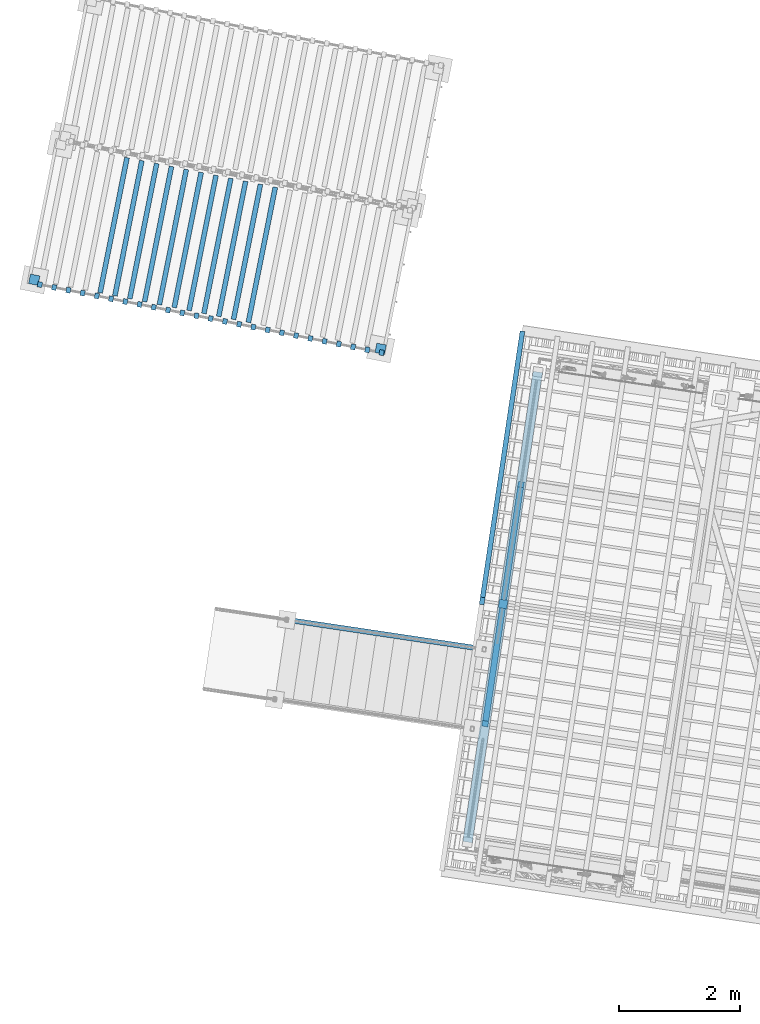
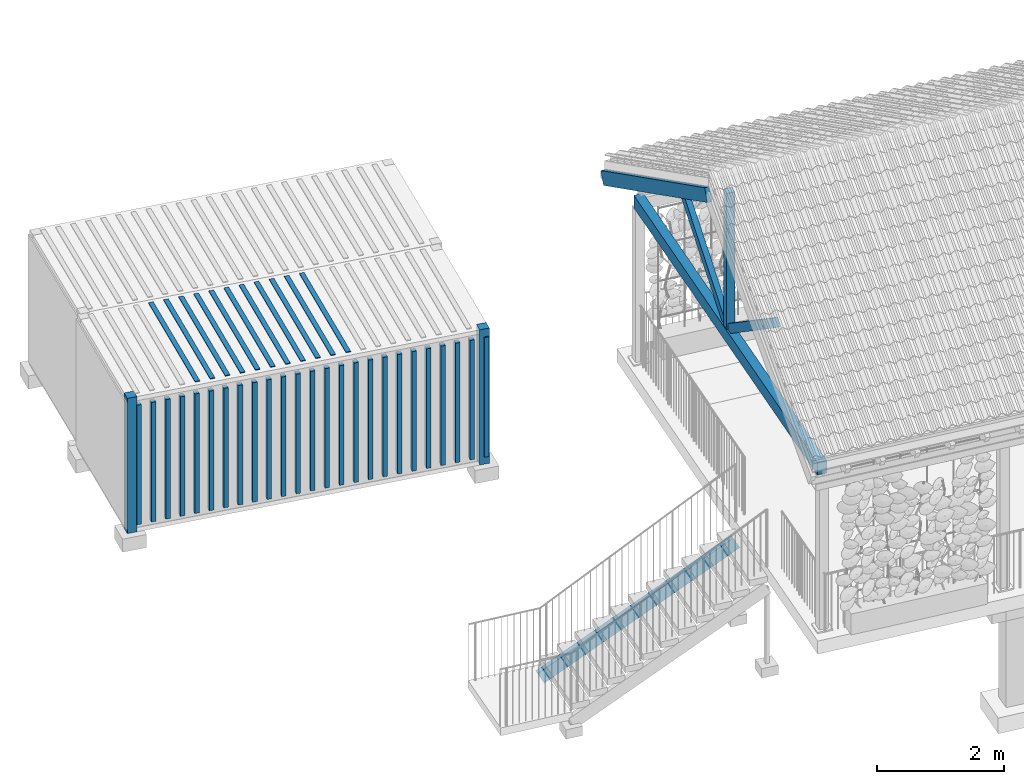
# One storey, part 23 of 131: 43 members, 1 beam, 3 elements without a shape of their own.
"""IFC4 building model written with IfcOpenShell, lengths in metres."""

from ifc_helpers import new_model, si_unit, direction, frame, origin_with_axes, place, context, subcontext, project, spatial, polyline, rectangle, outline, extrude, material, material_profile, profile_set, profile_usage, type_object, element, aggregate, save


model = new_model("IFC4")

# Units and contexts
model_context = context("Model", 3, precision=1e-05, world=origin_with_axes(), true_north=direction((0.0, 1.0)))
body_context = subcontext(model_context, "Body", "Model", "MODEL_VIEW")
ifc_project = project(units=[si_unit("VOLUMEUNIT", "CUBIC_METRE"), si_unit("LENGTHUNIT", "METRE"), si_unit("AREAUNIT", "SQUARE_METRE")], contexts=[model_context])

# Site, building, storey
site_placement = place(None, origin_with_axes())
site = spatial("IfcSite", under=ifc_project, at=site_placement, Name="Lares · Rua das Mercês · artigo 4771")
building_placement = place(site_placement, frame((15.0, 9.7, 14.65), z_axis=(0.0, 0.0, 1.0), x_axis=(0.989015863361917, -0.147809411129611, 0.0)))
building = spatial("IfcBuilding", under=site, at=building_placement, Name="Casa Sobreposta")
storey_placement = place(building_placement, origin_with_axes())
storey = spatial("IfcBuildingStorey", under=building, at=storey_placement, Name="00 · Habitação e estacionamento", Elevation=14.65)

# Roof, beam, members
ifc_material_1 = material(Name="Madeira / Bauholz", Category="wood")
roof_placement = place(storey_placement, origin_with_axes())
roof = element("IfcRoof", 1, at=roof_placement, inside=storey, material=ifc_material_1, Name="Cobertura de telha · duas águas 30 graus", PredefinedType="GABLE_ROOF")
ifc_material_profile_1 = material_profile(ifc_material_1, rectangle(XDim=0.16, YDim=0.24))
ifc_profile_set_1 = profile_set([ifc_material_profile_1], Name="TIMBER0.160x0.240")
ifc_profile_usage_1 = profile_usage(ifc_profile_set_1)
beam_type = type_object("IfcBeamType", Name="TIMBER0.160x0.240 / timber", PredefinedType="NOTDEFINED", material=ifc_profile_set_1)
beam_placement = place(roof_placement, frame((-6.05, -1.43, 3.02), z_axis=(0.0, 1.0, 0.0), x_axis=(1.0, 0.0, 0.0)))
beam = element("IfcBeam", 2, at=beam_placement, type_object=beam_type, material=ifc_profile_usage_1, Name="Tesoura · tirante inferior", context=body_context, shape_type="SweptSolid", body=[
    extrude(rectangle(XDim=0.16, YDim=0.24), origin_with_axes(), (0.0, 0.0, 1.0), 7.86),
])
ifc_material_profile_2 = material_profile(ifc_material_1, rectangle(XDim=0.14, YDim=0.14))
ifc_profile_set_2 = profile_set([ifc_material_profile_2], Name="TIMBER0.140x0.140")
ifc_profile_usage_2 = profile_usage(ifc_profile_set_2)
member_type_1 = type_object("IfcMemberType", Name="TIMBER0.140x0.140 / timber", PredefinedType="NOTDEFINED", material=ifc_profile_set_2)
member_1_placement = place(roof_placement, frame((-6.05, 2.55, 3.02), z_axis=(0.0, 0.0, 1.0), x_axis=(1.0, 0.0, 0.0)))
member_1 = element("IfcMember", 3, at=member_1_placement, type_object=member_type_1, material=ifc_profile_usage_2, Name="Tesoura · pendural", context=body_context, shape_type="SweptSolid", body=[
    extrude(rectangle(XDim=0.14, YDim=0.14), origin_with_axes(), (0.0, 0.0, 1.0), 2.72420869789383),
])
ifc_material_profile_3 = material_profile(ifc_material_1, rectangle(XDim=0.1, YDim=0.16))
ifc_profile_set_3 = profile_set([ifc_material_profile_3], Name="TIMBER0.100x0.160")
ifc_profile_usage_3 = profile_usage(ifc_profile_set_3)
member_type_2 = type_object("IfcMemberType", Name="TIMBER0.100x0.160 / timber", PredefinedType="NOTDEFINED", material=ifc_profile_set_3)
member_2_placement = place(roof_placement, frame((-6.05, 2.55, 3.1), z_axis=(0.0, -0.816439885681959, 0.577430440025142), x_axis=(-1.0, 0.0, 0.0)))
member_2 = element("IfcMember", 4, at=member_2_placement, type_object=member_type_2, material=ifc_profile_usage_3, Name="Tesoura · escora", context=body_context, shape_type="SweptSolid", body=[
    extrude(rectangle(XDim=0.1, YDim=0.16), origin_with_axes(), (0.0, 0.0, 1.0), 2.44965984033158),
])
ifc_profile_usage_4 = profile_usage(ifc_profile_set_3)
member_3_placement = place(roof_placement, frame((-6.05, 2.55, 3.1), z_axis=(0.0, 0.816439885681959, 0.577430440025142), x_axis=(1.0, 0.0, 0.0)))
member_3 = element("IfcMember", 5, at=member_3_placement, type_object=member_type_2, material=ifc_profile_usage_4, Name="Tesoura · escora", context=body_context, shape_type="SweptSolid", body=[
    extrude(rectangle(XDim=0.1, YDim=0.16), origin_with_axes(), (0.0, 0.0, 1.0), 2.44965984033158),
])
ifc_material_profile_4 = material_profile(ifc_material_1, rectangle(XDim=0.08, YDim=0.24))
ifc_profile_set_4 = profile_set([ifc_material_profile_4], Name="TIMBER0.080x0.240")
ifc_profile_usage_5 = profile_usage(ifc_profile_set_4)
member_type_3 = type_object("IfcMemberType", Name="TIMBER0.080x0.240 / timber", PredefinedType="NOTDEFINED", material=ifc_profile_set_4)
member_4_placement = place(roof_placement, frame((-6.4, 2.55, 5.75020869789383), z_axis=(0.0, 0.866025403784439, -0.5), x_axis=(1.0, 0.0, 0.0)))
member_4 = element("IfcMember", 6, at=member_4_placement, type_object=member_type_3, material=ifc_profile_usage_5, Name="Cobertura · caibro", context=body_context, shape_type="SweptSolid", body=[
    extrude(rectangle(XDim=0.08, YDim=0.24), origin_with_axes(), (0.0, 0.0, 1.0), 5.13841739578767),
])
aggregate(roof, [beam, member_1, member_2, member_3, member_4])

# Stair, member
stair_placement = place(storey_placement, origin_with_axes())
stair = element("IfcStair", 7, at=stair_placement, inside=storey, Name="Jardim · escada pela fachada poente", PredefinedType="STRAIGHT_RUN_STAIR")
ifc_material_2 = material(Name="Aço pintado / Stahl lackiert", Category="steel")
ifc_material_profile_5 = material_profile(ifc_material_2, outline(polyline([(-0.0425, -0.12), (0.0425, -0.12), (0.0425, -0.1102), (-0.0325, -0.1102), (-0.0325, 0.1102), (0.0425, 0.1102), (0.0425, 0.12), (-0.0425, 0.12), (-0.0425, -0.12)])))
ifc_profile_set_5 = profile_set([ifc_material_profile_5], Name="C240")
ifc_profile_usage_6 = profile_usage(ifc_profile_set_5)
member_type_4 = type_object("IfcMemberType", Name="C240 / steel", PredefinedType="NOTDEFINED", material=ifc_profile_set_5)
member_5_placement = place(stair_placement, frame((-6.25, 1.765, -0.419166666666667), z_axis=(-0.883369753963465, 0.0, -0.468676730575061), x_axis=(0.0, 1.0, 0.0)))
member_5 = element("IfcMember", 8, at=member_5_placement, type_object=member_type_4, material=ifc_profile_usage_6, Name="Jardim · longarina poente", context=body_context, shape_type="SweptSolid", body=[
    extrude(outline(polyline([(-0.0425, -0.12), (0.0425, -0.12), (0.0425, -0.1102), (-0.0325, -0.1102), (-0.0325, 0.1102), (0.0425, 0.1102), (0.0425, 0.12), (-0.0425, 0.12), (-0.0425, -0.12)])), origin_with_axes(), (0.0, 0.0, 1.0), 3.73569503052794),
])
aggregate(stair, [member_5])

# Assembly, members
assembly_placement = place(storey_placement, frame((-14.5932944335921, 6.63122214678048, 0.0), z_axis=(0.0, 0.0, 1.0), x_axis=(0.998832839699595, -0.0483007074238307, 0.0)))
assembly = element("IfcElementAssembly", 9, at=assembly_placement, inside=storey, Name="Contentor existente 2 · 6 m", ObjectType="EXISTING_SHIPPING_CONTAINER", PredefinedType="USERDEFINED")
ifc_material_3 = material(Name="Contentor · pintura 2", Category="steel")
member_6_placement = place(assembly_placement, frame((0.0, 0.0, -1.3), z_axis=(0.0, 0.0, 1.0), x_axis=(1.0, 0.0, 0.0)))
member_6 = element("IfcMember", 10, at=member_6_placement, material=ifc_material_3, Name="Contentor · canto", context=body_context, shape_type="SweptSolid", body=[
    extrude(outline(polyline([(0.16, 0.0), (0.16, 0.16), (0.0, 0.16), (0.0, 0.0), (0.16, 0.0)])), origin_with_axes(), (0.0, 0.0, 1.0), 2.59),
])
member_7_placement = place(assembly_placement, frame((0.0, 0.0, -1.3), z_axis=(0.0, 0.0, 1.0), x_axis=(1.0, 0.0, 0.0)))
member_7 = element("IfcMember", 11, at=member_7_placement, material=ifc_material_3, Name="Contentor · canto", context=body_context, shape_type="SweptSolid", body=[
    extrude(outline(polyline([(6.0, 0.0), (6.0, 0.16), (5.84, 0.16), (5.84, 0.0), (6.0, 0.0)])), origin_with_axes(), (0.0, 0.0, 1.0), 2.59),
])
member_8_placement = place(assembly_placement, frame((0.0, 0.0, -1.15), z_axis=(0.0, 0.0, 1.0), x_axis=(1.0, 0.0, 0.0)))
member_8 = element("IfcMember", 12, at=member_8_placement, material=ifc_material_3, Name="Contentor · nervura lateral", context=body_context, shape_type="SweptSolid", body=[
    extrude(outline(polyline([(0.225, -0.025), (0.225, 0.065), (0.15, 0.065), (0.15, -0.025), (0.225, -0.025)])), origin_with_axes(), (0.0, 0.0, 1.0), 2.29),
])
member_9_placement = place(assembly_placement, frame((0.0, 0.0, -1.15), z_axis=(0.0, 0.0, 1.0), x_axis=(1.0, 0.0, 0.0)))
member_9 = element("IfcMember", 13, at=member_9_placement, material=ifc_material_3, Name="Contentor · nervura lateral", context=body_context, shape_type="SweptSolid", body=[
    extrude(outline(polyline([(0.465, -0.025), (0.465, 0.065), (0.39, 0.065), (0.39, -0.025), (0.465, -0.025)])), origin_with_axes(), (0.0, 0.0, 1.0), 2.29),
])
member_10_placement = place(assembly_placement, frame((0.0, 0.0, -1.15), z_axis=(0.0, 0.0, 1.0), x_axis=(1.0, 0.0, 0.0)))
member_10 = element("IfcMember", 14, at=member_10_placement, material=ifc_material_3, Name="Contentor · nervura lateral", context=body_context, shape_type="SweptSolid", body=[
    extrude(outline(polyline([(0.705, -0.025), (0.705, 0.065), (0.63, 0.065), (0.63, -0.025), (0.705, -0.025)])), origin_with_axes(), (0.0, 0.0, 1.0), 2.29),
])
member_11_placement = place(assembly_placement, frame((0.0, 0.0, -1.15), z_axis=(0.0, 0.0, 1.0), x_axis=(1.0, 0.0, 0.0)))
member_11 = element("IfcMember", 15, at=member_11_placement, material=ifc_material_3, Name="Contentor · nervura lateral", context=body_context, shape_type="SweptSolid", body=[
    extrude(outline(polyline([(0.945, -0.025), (0.945, 0.065), (0.87, 0.065), (0.87, -0.025), (0.945, -0.025)])), origin_with_axes(), (0.0, 0.0, 1.0), 2.29),
])
member_12_placement = place(assembly_placement, frame((0.0, 0.0, -1.15), z_axis=(0.0, 0.0, 1.0), x_axis=(1.0, 0.0, 0.0)))
member_12 = element("IfcMember", 16, at=member_12_placement, material=ifc_material_3, Name="Contentor · nervura lateral", context=body_context, shape_type="SweptSolid", body=[
    extrude(outline(polyline([(1.185, -0.025), (1.185, 0.065), (1.11, 0.065), (1.11, -0.025), (1.185, -0.025)])), origin_with_axes(), (0.0, 0.0, 1.0), 2.29),
])
member_13_placement = place(assembly_placement, frame((0.0, 0.0, -1.15), z_axis=(0.0, 0.0, 1.0), x_axis=(1.0, 0.0, 0.0)))
member_13 = element("IfcMember", 17, at=member_13_placement, material=ifc_material_3, Name="Contentor · nervura lateral", context=body_context, shape_type="SweptSolid", body=[
    extrude(outline(polyline([(1.425, -0.025), (1.425, 0.065), (1.35, 0.065), (1.35, -0.025), (1.425, -0.025)])), origin_with_axes(), (0.0, 0.0, 1.0), 2.29),
])
member_14_placement = place(assembly_placement, frame((0.0, 0.0, -1.15), z_axis=(0.0, 0.0, 1.0), x_axis=(1.0, 0.0, 0.0)))
member_14 = element("IfcMember", 18, at=member_14_placement, material=ifc_material_3, Name="Contentor · nervura lateral", context=body_context, shape_type="SweptSolid", body=[
    extrude(outline(polyline([(1.665, -0.025), (1.665, 0.065), (1.59, 0.065), (1.59, -0.025), (1.665, -0.025)])), origin_with_axes(), (0.0, 0.0, 1.0), 2.29),
])
member_15_placement = place(assembly_placement, frame((0.0, 0.0, -1.15), z_axis=(0.0, 0.0, 1.0), x_axis=(1.0, 0.0, 0.0)))
member_15 = element("IfcMember", 19, at=member_15_placement, material=ifc_material_3, Name="Contentor · nervura lateral", context=body_context, shape_type="SweptSolid", body=[
    extrude(outline(polyline([(1.905, -0.025), (1.905, 0.065), (1.83, 0.065), (1.83, -0.025), (1.905, -0.025)])), origin_with_axes(), (0.0, 0.0, 1.0), 2.29),
])
member_16_placement = place(assembly_placement, frame((0.0, 0.0, -1.15), z_axis=(0.0, 0.0, 1.0), x_axis=(1.0, 0.0, 0.0)))
member_16 = element("IfcMember", 20, at=member_16_placement, material=ifc_material_3, Name="Contentor · nervura lateral", context=body_context, shape_type="SweptSolid", body=[
    extrude(outline(polyline([(2.145, -0.025), (2.145, 0.065), (2.07, 0.065), (2.07, -0.025), (2.145, -0.025)])), origin_with_axes(), (0.0, 0.0, 1.0), 2.29),
])
member_17_placement = place(assembly_placement, frame((0.0, 0.0, -1.15), z_axis=(0.0, 0.0, 1.0), x_axis=(1.0, 0.0, 0.0)))
member_17 = element("IfcMember", 21, at=member_17_placement, material=ifc_material_3, Name="Contentor · nervura lateral", context=body_context, shape_type="SweptSolid", body=[
    extrude(outline(polyline([(2.385, -0.025), (2.385, 0.065), (2.31, 0.065), (2.31, -0.025), (2.385, -0.025)])), origin_with_axes(), (0.0, 0.0, 1.0), 2.29),
])
member_18_placement = place(assembly_placement, frame((0.0, 0.0, -1.15), z_axis=(0.0, 0.0, 1.0), x_axis=(1.0, 0.0, 0.0)))
member_18 = element("IfcMember", 22, at=member_18_placement, material=ifc_material_3, Name="Contentor · nervura lateral", context=body_context, shape_type="SweptSolid", body=[
    extrude(outline(polyline([(2.625, -0.025), (2.625, 0.065), (2.55, 0.065), (2.55, -0.025), (2.625, -0.025)])), origin_with_axes(), (0.0, 0.0, 1.0), 2.29),
])
member_19_placement = place(assembly_placement, frame((0.0, 0.0, -1.15), z_axis=(0.0, 0.0, 1.0), x_axis=(1.0, 0.0, 0.0)))
member_19 = element("IfcMember", 23, at=member_19_placement, material=ifc_material_3, Name="Contentor · nervura lateral", context=body_context, shape_type="SweptSolid", body=[
    extrude(outline(polyline([(2.865, -0.025), (2.865, 0.065), (2.79, 0.065), (2.79, -0.025), (2.865, -0.025)])), origin_with_axes(), (0.0, 0.0, 1.0), 2.29),
])
member_20_placement = place(assembly_placement, frame((0.0, 0.0, -1.15), z_axis=(0.0, 0.0, 1.0), x_axis=(1.0, 0.0, 0.0)))
member_20 = element("IfcMember", 24, at=member_20_placement, material=ifc_material_3, Name="Contentor · nervura lateral", context=body_context, shape_type="SweptSolid", body=[
    extrude(outline(polyline([(3.105, -0.025), (3.105, 0.065), (3.03, 0.065), (3.03, -0.025), (3.105, -0.025)])), origin_with_axes(), (0.0, 0.0, 1.0), 2.29),
])
member_21_placement = place(assembly_placement, frame((0.0, 0.0, -1.15), z_axis=(0.0, 0.0, 1.0), x_axis=(1.0, 0.0, 0.0)))
member_21 = element("IfcMember", 25, at=member_21_placement, material=ifc_material_3, Name="Contentor · nervura lateral", context=body_context, shape_type="SweptSolid", body=[
    extrude(outline(polyline([(3.345, -0.025), (3.345, 0.065), (3.27, 0.065), (3.27, -0.025), (3.345, -0.025)])), origin_with_axes(), (0.0, 0.0, 1.0), 2.29),
])
member_22_placement = place(assembly_placement, frame((0.0, 0.0, -1.15), z_axis=(0.0, 0.0, 1.0), x_axis=(1.0, 0.0, 0.0)))
member_22 = element("IfcMember", 26, at=member_22_placement, material=ifc_material_3, Name="Contentor · nervura lateral", context=body_context, shape_type="SweptSolid", body=[
    extrude(outline(polyline([(3.585, -0.025), (3.585, 0.065), (3.51, 0.065), (3.51, -0.025), (3.585, -0.025)])), origin_with_axes(), (0.0, 0.0, 1.0), 2.29),
])
member_23_placement = place(assembly_placement, frame((0.0, 0.0, -1.15), z_axis=(0.0, 0.0, 1.0), x_axis=(1.0, 0.0, 0.0)))
member_23 = element("IfcMember", 27, at=member_23_placement, material=ifc_material_3, Name="Contentor · nervura lateral", context=body_context, shape_type="SweptSolid", body=[
    extrude(outline(polyline([(3.825, -0.025), (3.825, 0.065), (3.75, 0.065), (3.75, -0.025), (3.825, -0.025)])), origin_with_axes(), (0.0, 0.0, 1.0), 2.29),
])
member_24_placement = place(assembly_placement, frame((0.0, 0.0, -1.15), z_axis=(0.0, 0.0, 1.0), x_axis=(1.0, 0.0, 0.0)))
member_24 = element("IfcMember", 28, at=member_24_placement, material=ifc_material_3, Name="Contentor · nervura lateral", context=body_context, shape_type="SweptSolid", body=[
    extrude(outline(polyline([(4.065, -0.025), (4.065, 0.065), (3.99, 0.065), (3.99, -0.025), (4.065, -0.025)])), origin_with_axes(), (0.0, 0.0, 1.0), 2.29),
])
member_25_placement = place(assembly_placement, frame((0.0, 0.0, -1.15), z_axis=(0.0, 0.0, 1.0), x_axis=(1.0, 0.0, 0.0)))
member_25 = element("IfcMember", 29, at=member_25_placement, material=ifc_material_3, Name="Contentor · nervura lateral", context=body_context, shape_type="SweptSolid", body=[
    extrude(outline(polyline([(4.305, -0.025), (4.305, 0.065), (4.23, 0.065), (4.23, -0.025), (4.305, -0.025)])), origin_with_axes(), (0.0, 0.0, 1.0), 2.29),
])
member_26_placement = place(assembly_placement, frame((0.0, 0.0, -1.15), z_axis=(0.0, 0.0, 1.0), x_axis=(1.0, 0.0, 0.0)))
member_26 = element("IfcMember", 30, at=member_26_placement, material=ifc_material_3, Name="Contentor · nervura lateral", context=body_context, shape_type="SweptSolid", body=[
    extrude(outline(polyline([(4.545, -0.025), (4.545, 0.065), (4.47, 0.065), (4.47, -0.025), (4.545, -0.025)])), origin_with_axes(), (0.0, 0.0, 1.0), 2.29),
])
member_27_placement = place(assembly_placement, frame((0.0, 0.0, -1.15), z_axis=(0.0, 0.0, 1.0), x_axis=(1.0, 0.0, 0.0)))
member_27 = element("IfcMember", 31, at=member_27_placement, material=ifc_material_3, Name="Contentor · nervura lateral", context=body_context, shape_type="SweptSolid", body=[
    extrude(outline(polyline([(4.785, -0.025), (4.785, 0.065), (4.71, 0.065), (4.71, -0.025), (4.785, -0.025)])), origin_with_axes(), (0.0, 0.0, 1.0), 2.29),
])
member_28_placement = place(assembly_placement, frame((0.0, 0.0, -1.15), z_axis=(0.0, 0.0, 1.0), x_axis=(1.0, 0.0, 0.0)))
member_28 = element("IfcMember", 32, at=member_28_placement, material=ifc_material_3, Name="Contentor · nervura lateral", context=body_context, shape_type="SweptSolid", body=[
    extrude(outline(polyline([(5.025, -0.025), (5.025, 0.065), (4.95, 0.065), (4.95, -0.025), (5.025, -0.025)])), origin_with_axes(), (0.0, 0.0, 1.0), 2.29),
])
member_29_placement = place(assembly_placement, frame((0.0, 0.0, -1.15), z_axis=(0.0, 0.0, 1.0), x_axis=(1.0, 0.0, 0.0)))
member_29 = element("IfcMember", 33, at=member_29_placement, material=ifc_material_3, Name="Contentor · nervura lateral", context=body_context, shape_type="SweptSolid", body=[
    extrude(outline(polyline([(5.265, -0.025), (5.265, 0.065), (5.19, 0.065), (5.19, -0.025), (5.265, -0.025)])), origin_with_axes(), (0.0, 0.0, 1.0), 2.29),
])
member_30_placement = place(assembly_placement, frame((0.0, 0.0, -1.15), z_axis=(0.0, 0.0, 1.0), x_axis=(1.0, 0.0, 0.0)))
member_30 = element("IfcMember", 34, at=member_30_placement, material=ifc_material_3, Name="Contentor · nervura lateral", context=body_context, shape_type="SweptSolid", body=[
    extrude(outline(polyline([(5.505, -0.025), (5.505, 0.065), (5.43, 0.065), (5.43, -0.025), (5.505, -0.025)])), origin_with_axes(), (0.0, 0.0, 1.0), 2.29),
])
member_31_placement = place(assembly_placement, frame((0.0, 0.0, -1.15), z_axis=(0.0, 0.0, 1.0), x_axis=(1.0, 0.0, 0.0)))
member_31 = element("IfcMember", 35, at=member_31_placement, material=ifc_material_3, Name="Contentor · nervura lateral", context=body_context, shape_type="SweptSolid", body=[
    extrude(outline(polyline([(5.745, -0.025), (5.745, 0.065), (5.67, 0.065), (5.67, -0.025), (5.745, -0.025)])), origin_with_axes(), (0.0, 0.0, 1.0), 2.29),
])
member_32_placement = place(assembly_placement, frame((0.0, 0.0, -1.15), z_axis=(0.0, 0.0, 1.0), x_axis=(1.0, 0.0, 0.0)))
member_32 = element("IfcMember", 36, at=member_32_placement, material=ifc_material_3, Name="Contentor · nervura lateral", context=body_context, shape_type="SweptSolid", body=[
    extrude(outline(polyline([(5.985, -0.025), (5.985, 0.065), (5.91, 0.065), (5.91, -0.025), (5.985, -0.025)])), origin_with_axes(), (0.0, 0.0, 1.0), 2.29),
])
member_33_placement = place(assembly_placement, frame((0.0, 0.0, 1.285), z_axis=(0.0, 0.0, 1.0), x_axis=(1.0, 0.0, 0.0)))
member_33 = element("IfcMember", 37, at=member_33_placement, material=ifc_material_3, Name="Contentor · nervura cobertura", context=body_context, shape_type="SweptSolid", body=[
    extrude(outline(polyline([(1.23, 0.08), (1.23, 2.36), (1.15, 2.36), (1.15, 0.08), (1.23, 0.08)])), origin_with_axes(), (0.0, 0.0, 1.0), 0.018),
])
member_34_placement = place(assembly_placement, frame((0.0, 0.0, 1.285), z_axis=(0.0, 0.0, 1.0), x_axis=(1.0, 0.0, 0.0)))
member_34 = element("IfcMember", 38, at=member_34_placement, material=ifc_material_3, Name="Contentor · nervura cobertura", context=body_context, shape_type="SweptSolid", body=[
    extrude(outline(polyline([(1.48, 0.08), (1.48, 2.36), (1.4, 2.36), (1.4, 0.08), (1.48, 0.08)])), origin_with_axes(), (0.0, 0.0, 1.0), 0.018),
])
member_35_placement = place(assembly_placement, frame((0.0, 0.0, 1.285), z_axis=(0.0, 0.0, 1.0), x_axis=(1.0, 0.0, 0.0)))
member_35 = element("IfcMember", 39, at=member_35_placement, material=ifc_material_3, Name="Contentor · nervura cobertura", context=body_context, shape_type="SweptSolid", body=[
    extrude(outline(polyline([(1.73, 0.08), (1.73, 2.36), (1.65, 2.36), (1.65, 0.08), (1.73, 0.08)])), origin_with_axes(), (0.0, 0.0, 1.0), 0.018),
])
member_36_placement = place(assembly_placement, frame((0.0, 0.0, 1.285), z_axis=(0.0, 0.0, 1.0), x_axis=(1.0, 0.0, 0.0)))
member_36 = element("IfcMember", 40, at=member_36_placement, material=ifc_material_3, Name="Contentor · nervura cobertura", context=body_context, shape_type="SweptSolid", body=[
    extrude(outline(polyline([(1.98, 0.08), (1.98, 2.36), (1.9, 2.36), (1.9, 0.08), (1.98, 0.08)])), origin_with_axes(), (0.0, 0.0, 1.0), 0.018),
])
member_37_placement = place(assembly_placement, frame((0.0, 0.0, 1.285), z_axis=(0.0, 0.0, 1.0), x_axis=(1.0, 0.0, 0.0)))
member_37 = element("IfcMember", 41, at=member_37_placement, material=ifc_material_3, Name="Contentor · nervura cobertura", context=body_context, shape_type="SweptSolid", body=[
    extrude(outline(polyline([(2.23, 0.08), (2.23, 2.36), (2.15, 2.36), (2.15, 0.08), (2.23, 0.08)])), origin_with_axes(), (0.0, 0.0, 1.0), 0.018),
])
member_38_placement = place(assembly_placement, frame((0.0, 0.0, 1.285), z_axis=(0.0, 0.0, 1.0), x_axis=(1.0, 0.0, 0.0)))
member_38 = element("IfcMember", 42, at=member_38_placement, material=ifc_material_3, Name="Contentor · nervura cobertura", context=body_context, shape_type="SweptSolid", body=[
    extrude(outline(polyline([(2.48, 0.08), (2.48, 2.36), (2.4, 2.36), (2.4, 0.08), (2.48, 0.08)])), origin_with_axes(), (0.0, 0.0, 1.0), 0.018),
])
member_39_placement = place(assembly_placement, frame((0.0, 0.0, 1.285), z_axis=(0.0, 0.0, 1.0), x_axis=(1.0, 0.0, 0.0)))
member_39 = element("IfcMember", 43, at=member_39_placement, material=ifc_material_3, Name="Contentor · nervura cobertura", context=body_context, shape_type="SweptSolid", body=[
    extrude(outline(polyline([(2.73, 0.08), (2.73, 2.36), (2.65, 2.36), (2.65, 0.08), (2.73, 0.08)])), origin_with_axes(), (0.0, 0.0, 1.0), 0.018),
])
member_40_placement = place(assembly_placement, frame((0.0, 0.0, 1.285), z_axis=(0.0, 0.0, 1.0), x_axis=(1.0, 0.0, 0.0)))
member_40 = element("IfcMember", 44, at=member_40_placement, material=ifc_material_3, Name="Contentor · nervura cobertura", context=body_context, shape_type="SweptSolid", body=[
    extrude(outline(polyline([(2.98, 0.08), (2.98, 2.36), (2.9, 2.36), (2.9, 0.08), (2.98, 0.08)])), origin_with_axes(), (0.0, 0.0, 1.0), 0.018),
])
member_41_placement = place(assembly_placement, frame((0.0, 0.0, 1.285), z_axis=(0.0, 0.0, 1.0), x_axis=(1.0, 0.0, 0.0)))
member_41 = element("IfcMember", 45, at=member_41_placement, material=ifc_material_3, Name="Contentor · nervura cobertura", context=body_context, shape_type="SweptSolid", body=[
    extrude(outline(polyline([(3.23, 0.08), (3.23, 2.36), (3.15, 2.36), (3.15, 0.08), (3.23, 0.08)])), origin_with_axes(), (0.0, 0.0, 1.0), 0.018),
])
member_42_placement = place(assembly_placement, frame((0.0, 0.0, 1.285), z_axis=(0.0, 0.0, 1.0), x_axis=(1.0, 0.0, 0.0)))
member_42 = element("IfcMember", 46, at=member_42_placement, material=ifc_material_3, Name="Contentor · nervura cobertura", context=body_context, shape_type="SweptSolid", body=[
    extrude(outline(polyline([(3.48, 0.08), (3.48, 2.36), (3.4, 2.36), (3.4, 0.08), (3.48, 0.08)])), origin_with_axes(), (0.0, 0.0, 1.0), 0.018),
])
member_43_placement = place(assembly_placement, frame((0.0, 0.0, 1.285), z_axis=(0.0, 0.0, 1.0), x_axis=(1.0, 0.0, 0.0)))
member_43 = element("IfcMember", 47, at=member_43_placement, material=ifc_material_3, Name="Contentor · nervura cobertura", context=body_context, shape_type="SweptSolid", body=[
    extrude(outline(polyline([(3.73, 0.08), (3.73, 2.36), (3.65, 2.36), (3.65, 0.08), (3.73, 0.08)])), origin_with_axes(), (0.0, 0.0, 1.0), 0.018),
])
aggregate(assembly, [member_6, member_7, member_8, member_9, member_10, member_11, member_12, member_13, member_14, member_15, member_16, member_17, member_18, member_19, member_20, member_21, member_22, member_23, member_24, member_25, member_26, member_27, member_28, member_29, member_30, member_31, member_32, member_33, member_34, member_35, member_36, member_37, member_38, member_39, member_40, member_41, member_42, member_43])

save(model, "model.ifc")
